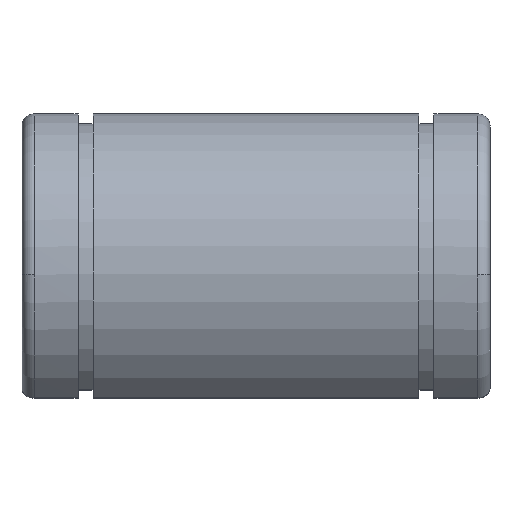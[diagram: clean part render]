
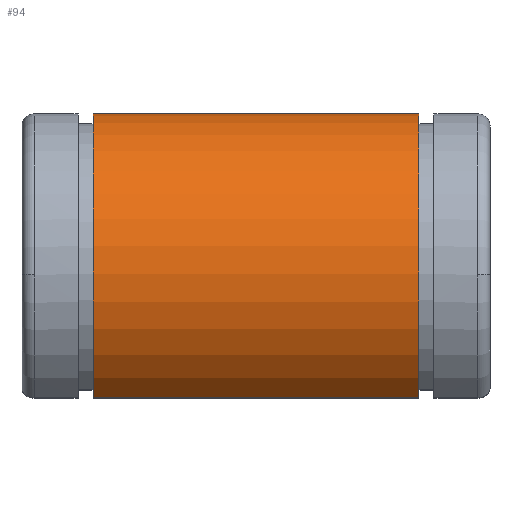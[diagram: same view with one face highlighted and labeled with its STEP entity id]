
A CAD part, top view. The second image highlights one B-rep face of the part: STEP entity #94.
In plain terms, the highlighted cylindrical face has radius 20 mm (diameter 40 mm), a partial arc.
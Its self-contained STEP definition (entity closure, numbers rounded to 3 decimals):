
#94 = ADVANCED_FACE( '', ( #152 ), #153, .T. );
#152 = FACE_OUTER_BOUND( '', #228, .T. );
#153 = CYLINDRICAL_SURFACE( '', #229, 20. );
#228 = EDGE_LOOP( '', ( #443, #444, #445, #446 ) );
#229 = AXIS2_PLACEMENT_3D( '', #447, #448, #449 );
#443 = ORIENTED_EDGE( '', *, *, #642, .T. );
#444 = ORIENTED_EDGE( '', *, *, #686, .F. );
#445 = ORIENTED_EDGE( '', *, *, #670, .T. );
#446 = ORIENTED_EDGE( '', *, *, #685, .T. );
#447 = CARTESIAN_POINT( '', ( 0., 0., 0. ) );
#448 = DIRECTION( '', ( 1., 0., 0. ) );
#449 = DIRECTION( '', ( 0., 1., 0. ) );
#642 = EDGE_CURVE( '', #792, #793, #794, .T. );
#670 = EDGE_CURVE( '', #844, #842, #845, .T. );
#685 = EDGE_CURVE( '', #842, #792, #865, .T. );
#686 = EDGE_CURVE( '', #844, #793, #866, .T. );
#792 = VERTEX_POINT( '', #1022 );
#793 = VERTEX_POINT( '', #1023 );
#794 = LINE( '', #1024, #1025 );
#842 = VERTEX_POINT( '', #1111 );
#844 = VERTEX_POINT( '', #1114 );
#845 = LINE( '', #1115, #1116 );
#865 = CIRCLE( '', #1163, 20. );
#866 = CIRCLE( '', #1164, 20. );
#1022 = CARTESIAN_POINT( '', ( 20.2, 20., 0. ) );
#1023 = CARTESIAN_POINT( '', ( -20.2, 20., 0. ) );
#1024 = CARTESIAN_POINT( '', ( 0., 20., 0. ) );
#1025 = VECTOR( '', #1282, 1. );
#1111 = CARTESIAN_POINT( '', ( 20.2, -15.219, 12.977 ) );
#1114 = CARTESIAN_POINT( '', ( -20.2, -15.219, 12.977 ) );
#1115 = CARTESIAN_POINT( '', ( 0., -15.219, 12.977 ) );
#1116 = VECTOR( '', #1317, 1. );
#1163 = AXIS2_PLACEMENT_3D( '', #1337, #1338, #1339 );
#1164 = AXIS2_PLACEMENT_3D( '', #1340, #1341, #1342 );
#1282 = DIRECTION( '', ( -1., 0., 0. ) );
#1317 = DIRECTION( '', ( 1., 0., 0. ) );
#1337 = CARTESIAN_POINT( '', ( 20.2, 0., 0. ) );
#1338 = DIRECTION( '', ( -1., 0., 0. ) );
#1339 = DIRECTION( '', ( 0., 1., 0. ) );
#1340 = CARTESIAN_POINT( '', ( -20.2, 0., 0. ) );
#1341 = DIRECTION( '', ( -1., 0., 0. ) );
#1342 = DIRECTION( '', ( 0., 1., 0. ) );
